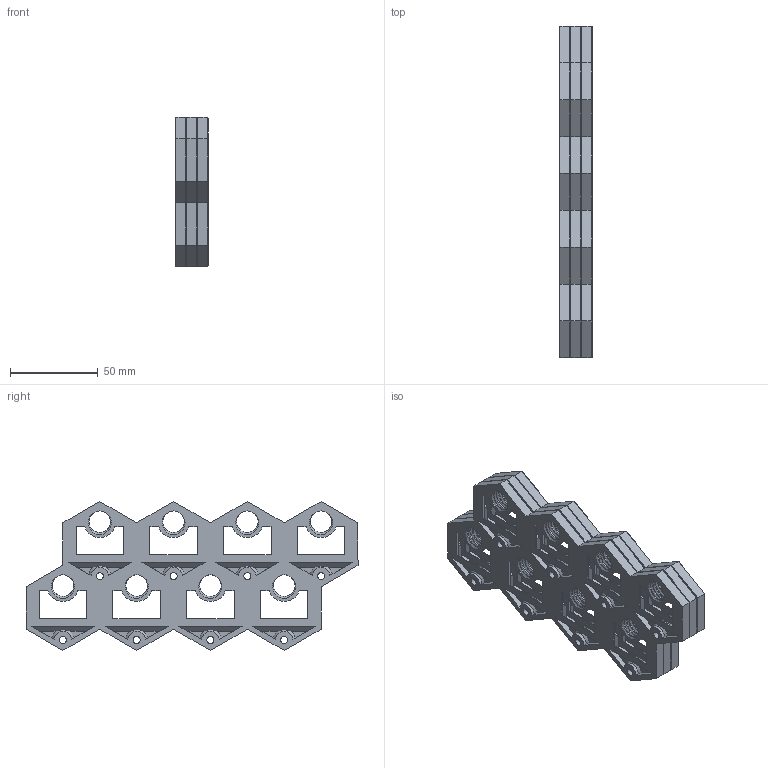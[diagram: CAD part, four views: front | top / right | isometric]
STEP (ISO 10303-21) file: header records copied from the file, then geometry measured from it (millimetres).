
FILE_DESCRIPTION(/* description */ ('','CAx-IF Rec.Pracs.---Representation and Presentation of Product Manufacturing Information (PMI)---4.0---2014-10-13'),/* implementation_level */ '2;1');
FILE_NAME(/* name */ 'GOEWS 2x4 Tile Stack with 0.2 Gaps.step',/* time_stamp */ '2024-11-29T15:33:18-05:00',/* author */ (''),/* organization */ (''),/* preprocessor_version */ 'ST-DEVELOPER v20',/* originating_system */ 'Autodesk Translation Framework v13.20.0.188',/* authorisation */ '');
FILE_SCHEMA (('AP242_MANAGED_MODEL_BASED_3D_ENGINEERING_MIM_LF { 1 0 10303 442 1 1 4 }'));
Products named in the file (1): GOEWS Parametric Tile Stack with Gaps
Bounding box: 18.4 x 189 x 84.87 mm (x, y, z)
Volume: 109987.5 mm3; surface area: 86369.6 mm2
Topology: 3 solids, 3 shells, 1293 faces, 3519 edges, 2256 vertices
Faces by surface type: plane 885, cylinder 288, cone 72, bspline 48
Full cylindrical faces by diameter (mm): 4 x24, 8 x24, 12.322 x48, 14.55 x48
Entity records: 68312 total; most frequent: CARTESIAN_POINT 36589, ORIENTED_EDGE 7038, DIRECTION 5771, EDGE_CURVE 3519, LINE 2511, VECTOR 2511, VERTEX_POINT 2256, AXIS2_PLACEMENT_3D 1630
